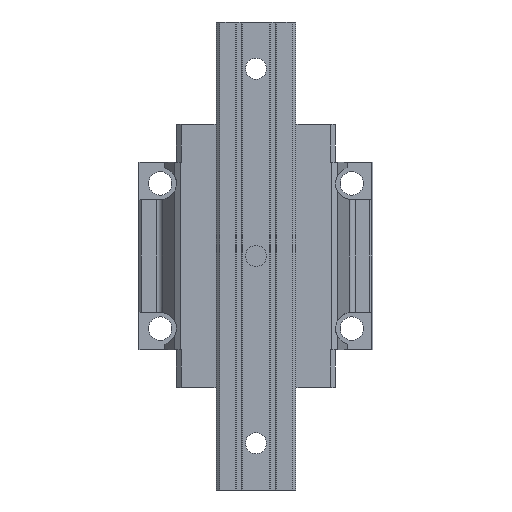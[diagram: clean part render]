
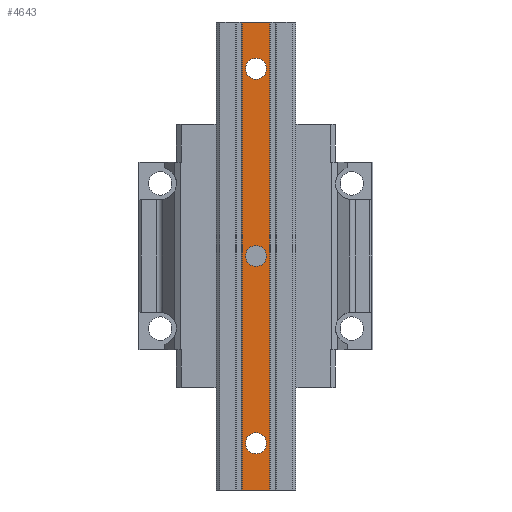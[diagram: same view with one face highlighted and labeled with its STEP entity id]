
A CAD part, front view. The second image highlights one B-rep face of the part: STEP entity #4643.
In plain terms, the highlighted planar face has unit normal (0, -1, 0).
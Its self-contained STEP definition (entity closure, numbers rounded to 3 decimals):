
#90 = CARTESIAN_POINT ( 'NONE',  ( 0., -29., 0. ) ) ;
#175 = CIRCLE ( 'NONE', #7505, 4.5 ) ;
#262 = EDGE_CURVE ( 'NONE', #7383, #4927, #6363, .T. ) ;
#290 = VERTEX_POINT ( 'NONE', #3365 ) ;
#419 = CARTESIAN_POINT ( 'NONE',  ( 0., -29., 0. ) ) ;
#423 = AXIS2_PLACEMENT_3D ( 'NONE', #6634, #2593, #5572 ) ;
#450 = DIRECTION ( 'NONE',  ( 0., 1., 0. ) ) ;
#537 = FACE_OUTER_BOUND ( 'NONE', #4200, .T. ) ;
#735 = VERTEX_POINT ( 'NONE', #839 ) ;
#740 = CARTESIAN_POINT ( 'NONE',  ( -5.85, -29., -100. ) ) ;
#773 = ORIENTED_EDGE ( 'NONE', *, *, #1163, .T. ) ;
#839 = CARTESIAN_POINT ( 'NONE',  ( 5.85, -29., -100. ) ) ;
#983 = CIRCLE ( 'NONE', #5613, 4.5 ) ;
#1040 = DIRECTION ( 'NONE',  ( 0., 0., -1. ) ) ;
#1078 = CARTESIAN_POINT ( 'NONE',  ( 0., -29., -84.5 ) ) ;
#1109 = FACE_BOUND ( 'NONE', #4513, .T. ) ;
#1163 = EDGE_CURVE ( 'NONE', #290, #7425, #7152, .T. ) ;
#1194 = EDGE_CURVE ( 'NONE', #3528, #1576, #5025, .T. ) ;
#1225 = ORIENTED_EDGE ( 'NONE', *, *, #4694, .T. ) ;
#1370 = CIRCLE ( 'NONE', #4597, 4.5 ) ;
#1434 = EDGE_LOOP ( 'NONE', ( #5841, #3233 ) ) ;
#1576 = VERTEX_POINT ( 'NONE', #2198 ) ;
#1634 = CARTESIAN_POINT ( 'NONE',  ( -5.85, -29., -100. ) ) ;
#1640 = ORIENTED_EDGE ( 'NONE', *, *, #262, .T. ) ;
#2192 = VERTEX_POINT ( 'NONE', #2254 ) ;
#2198 = CARTESIAN_POINT ( 'NONE',  ( 0., -29., 75.5 ) ) ;
#2254 = CARTESIAN_POINT ( 'NONE',  ( 5.85, -29., 100. ) ) ;
#2296 = AXIS2_PLACEMENT_3D ( 'NONE', #3640, #6057, #4377 ) ;
#2314 = PLANE ( 'NONE',  #4719 ) ;
#2458 = VECTOR ( 'NONE', #5319, 1000. ) ;
#2593 = DIRECTION ( 'NONE',  ( 0., 1., 0. ) ) ;
#2695 = DIRECTION ( 'NONE',  ( 0., 1., 0. ) ) ;
#2699 = VECTOR ( 'NONE', #3188, 1000. ) ;
#2768 = DIRECTION ( 'NONE',  ( 0., 0., 1. ) ) ;
#2801 = DIRECTION ( 'NONE',  ( 0., 0., 1. ) ) ;
#2815 = ORIENTED_EDGE ( 'NONE', *, *, #3845, .T. ) ;
#2863 = VECTOR ( 'NONE', #1040, 1000. ) ;
#3077 = DIRECTION ( 'NONE',  ( 0., 0., -1. ) ) ;
#3156 = ORIENTED_EDGE ( 'NONE', *, *, #3693, .T. ) ;
#3188 = DIRECTION ( 'NONE',  ( 0., 0., 1. ) ) ;
#3203 = EDGE_CURVE ( 'NONE', #3657, #4914, #983, .T. ) ;
#3233 = ORIENTED_EDGE ( 'NONE', *, *, #6225, .T. ) ;
#3365 = CARTESIAN_POINT ( 'NONE',  ( 0., -29., -75.5 ) ) ;
#3413 = CARTESIAN_POINT ( 'NONE',  ( 0., -29., -80. ) ) ;
#3475 = FACE_BOUND ( 'NONE', #1434, .T. ) ;
#3528 = VERTEX_POINT ( 'NONE', #4352 ) ;
#3640 = CARTESIAN_POINT ( 'NONE',  ( 0., -29., 80. ) ) ;
#3657 = VERTEX_POINT ( 'NONE', #4391 ) ;
#3666 = DIRECTION ( 'NONE',  ( 0., -1., 0. ) ) ;
#3693 = EDGE_CURVE ( 'NONE', #4927, #735, #5198, .T. ) ;
#3845 = EDGE_CURVE ( 'NONE', #735, #2192, #7284, .T. ) ;
#3981 = AXIS2_PLACEMENT_3D ( 'NONE', #419, #2695, #2768 ) ;
#4023 = CARTESIAN_POINT ( 'NONE',  ( -5.85, -29., 100. ) ) ;
#4200 = EDGE_LOOP ( 'NONE', ( #2815, #6329, #1640, #3156 ) ) ;
#4352 = CARTESIAN_POINT ( 'NONE',  ( 0., -29., 84.5 ) ) ;
#4377 = DIRECTION ( 'NONE',  ( 0., 0., 1. ) ) ;
#4391 = CARTESIAN_POINT ( 'NONE',  ( 0., -29., 4.5 ) ) ;
#4513 = EDGE_LOOP ( 'NONE', ( #7293, #7234 ) ) ;
#4567 = EDGE_CURVE ( 'NONE', #7383, #2192, #5929, .T. ) ;
#4597 = AXIS2_PLACEMENT_3D ( 'NONE', #3413, #450, #2801 ) ;
#4603 = DIRECTION ( 'NONE',  ( 0., 0., 1. ) ) ;
#4643 = ADVANCED_FACE ( 'NONE', ( #1109, #3475, #5895, #537 ), #2314, .T. ) ;
#4694 = EDGE_CURVE ( 'NONE', #7425, #290, #1370, .T. ) ;
#4719 = AXIS2_PLACEMENT_3D ( 'NONE', #4836, #3666, #3077 ) ;
#4836 = CARTESIAN_POINT ( 'NONE',  ( -5.85, -29., -100. ) ) ;
#4914 = VERTEX_POINT ( 'NONE', #6684 ) ;
#4927 = VERTEX_POINT ( 'NONE', #740 ) ;
#5025 = CIRCLE ( 'NONE', #2296, 4.5 ) ;
#5164 = CARTESIAN_POINT ( 'NONE',  ( 0., -29., 100. ) ) ;
#5198 = LINE ( 'NONE', #7010, #2458 ) ;
#5244 = DIRECTION ( 'NONE',  ( 1., 0., 0. ) ) ;
#5319 = DIRECTION ( 'NONE',  ( 1., 0., 0. ) ) ;
#5572 = DIRECTION ( 'NONE',  ( 0., 0., 1. ) ) ;
#5613 = AXIS2_PLACEMENT_3D ( 'NONE', #90, #7175, #4603 ) ;
#5841 = ORIENTED_EDGE ( 'NONE', *, *, #1194, .T. ) ;
#5884 = CARTESIAN_POINT ( 'NONE',  ( 0., -29., 80. ) ) ;
#5895 = FACE_BOUND ( 'NONE', #6410, .T. ) ;
#5929 = LINE ( 'NONE', #5164, #6368 ) ;
#6057 = DIRECTION ( 'NONE',  ( 0., 1., 0. ) ) ;
#6119 = EDGE_CURVE ( 'NONE', #4914, #3657, #7372, .T. ) ;
#6225 = EDGE_CURVE ( 'NONE', #1576, #3528, #175, .T. ) ;
#6329 = ORIENTED_EDGE ( 'NONE', *, *, #4567, .F. ) ;
#6363 = LINE ( 'NONE', #1634, #2863 ) ;
#6368 = VECTOR ( 'NONE', #5244, 1000. ) ;
#6410 = EDGE_LOOP ( 'NONE', ( #773, #1225 ) ) ;
#6544 = DIRECTION ( 'NONE',  ( 0., 0., 1. ) ) ;
#6634 = CARTESIAN_POINT ( 'NONE',  ( 0., -29., -80. ) ) ;
#6684 = CARTESIAN_POINT ( 'NONE',  ( 0., -29., -4.5 ) ) ;
#6775 = CARTESIAN_POINT ( 'NONE',  ( 5.85, -29., -100. ) ) ;
#7010 = CARTESIAN_POINT ( 'NONE',  ( 0., -29., -100. ) ) ;
#7152 = CIRCLE ( 'NONE', #423, 4.5 ) ;
#7170 = DIRECTION ( 'NONE',  ( 0., 1., 0. ) ) ;
#7175 = DIRECTION ( 'NONE',  ( 0., 1., 0. ) ) ;
#7234 = ORIENTED_EDGE ( 'NONE', *, *, #6119, .T. ) ;
#7284 = LINE ( 'NONE', #6775, #2699 ) ;
#7293 = ORIENTED_EDGE ( 'NONE', *, *, #3203, .T. ) ;
#7372 = CIRCLE ( 'NONE', #3981, 4.5 ) ;
#7383 = VERTEX_POINT ( 'NONE', #4023 ) ;
#7425 = VERTEX_POINT ( 'NONE', #1078 ) ;
#7505 = AXIS2_PLACEMENT_3D ( 'NONE', #5884, #7170, #6544 ) ;
